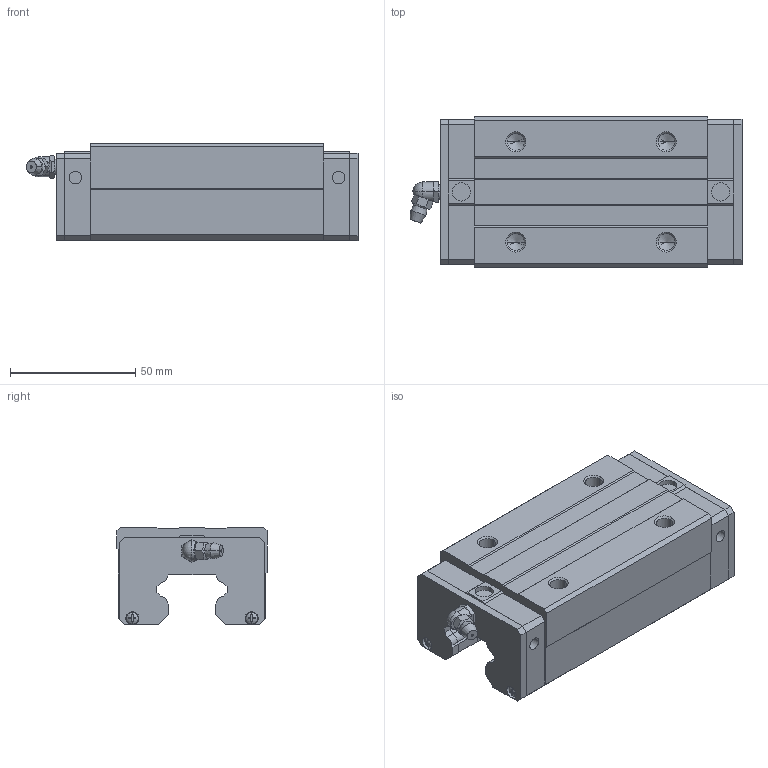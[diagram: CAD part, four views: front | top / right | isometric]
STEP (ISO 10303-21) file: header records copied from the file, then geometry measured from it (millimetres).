
FILE_DESCRIPTION(('starvars output'),'2;1');
FILE_NAME('cv20190625223407000062538.stp','22:34:07 2019/06/25',( 'Thomas Industrial Network Germany GmbH'),( 'Thomas Industrial Network Germany GmbH'),'unknown preprocess','ACIS' ,'unknown authorization');
FILE_SCHEMA(('CONFIG_CONTROL_DESIGN {UNKNOWN IMPLEMENTATION LEVEL}'));
Length unit declared in the file: millimetre
Products named in the file (10): PRODUCT_ID_1; PRODUCT_ID_2; PRODUCT_ID_3; PRODUCT_ID_4; PRODUCT_ID_5; PRODUCT_ID_6; PRODUCT_ID_7; PRODUCT_ID_8; PRODUCT_ID_9; PRODUCT_ID_10
Bounding box: 132.4 x 60 x 39 mm (x, y, z)
Volume: 213863.6 mm3; surface area: 47383.3 mm2
Topology: 10 solids, 10 shells, 387 faces, 978 edges, 620 vertices
Faces by surface type: plane 240, cylinder 71, cone 64, sphere 12
Entity records: 11111 total; most frequent: ORIENTED_EDGE 1932, CARTESIAN_POINT 1813, DIRECTION 1513, EDGE_CURVE 966, VECTOR 621, LINE 621, VERTEX_POINT 620, AXIS2_PLACEMENT_3D 446
